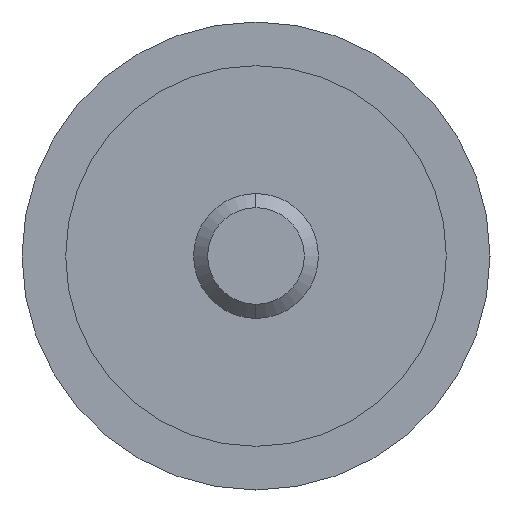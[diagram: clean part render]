
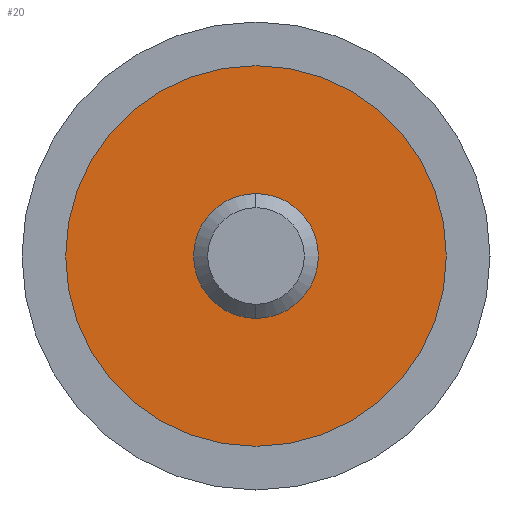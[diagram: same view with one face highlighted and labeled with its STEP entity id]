
A CAD part, left-side view. The second image highlights one B-rep face of the part: STEP entity #20.
In plain terms, the highlighted planar face has unit normal (-1, 0, 0).
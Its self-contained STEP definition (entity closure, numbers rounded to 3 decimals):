
#19 = DIRECTION ( 'NONE',  ( 0., 0., 1. ) ) ;
#20 = ADVANCED_FACE ( 'NONE', ( #87, #362 ), #357, .F. ) ;
#24 = EDGE_LOOP ( 'NONE', ( #215, #567 ) ) ;
#26 = DIRECTION ( 'NONE',  ( 0., 0., -1. ) ) ;
#43 = CARTESIAN_POINT ( 'NONE',  ( -3.99, 6.1, 0. ) ) ;
#56 = CARTESIAN_POINT ( 'NONE',  ( -3.99, 0., 6.1 ) ) ;
#68 = CIRCLE ( 'NONE', #584, 2. ) ;
#87 = FACE_OUTER_BOUND ( 'NONE', #107, .T. ) ;
#107 = EDGE_LOOP ( 'NONE', ( #369, #512 ) ) ;
#115 = CIRCLE ( 'NONE', #211, 6.1 ) ;
#135 = VERTEX_POINT ( 'NONE', #389 ) ;
#166 = CARTESIAN_POINT ( 'NONE',  ( -3.99, 0., 0. ) ) ;
#186 = CARTESIAN_POINT ( 'NONE',  ( -3.99, 0., 0. ) ) ;
#211 = AXIS2_PLACEMENT_3D ( 'NONE', #621, #680, #515 ) ;
#215 = ORIENTED_EDGE ( 'NONE', *, *, #294, .F. ) ;
#220 = VERTEX_POINT ( 'NONE', #343 ) ;
#254 = CARTESIAN_POINT ( 'NONE',  ( -3.99, 0., -6.1 ) ) ;
#294 = EDGE_CURVE ( 'NONE', #220, #135, #68, .T. ) ;
#343 = CARTESIAN_POINT ( 'NONE',  ( -3.99, 0., 2. ) ) ;
#350 = DIRECTION ( 'NONE',  ( -1., 0., 0. ) ) ;
#357 = PLANE ( 'NONE',  #374 ) ;
#362 = FACE_BOUND ( 'NONE', #24, .T. ) ;
#369 = ORIENTED_EDGE ( 'NONE', *, *, #639, .T. ) ;
#374 = AXIS2_PLACEMENT_3D ( 'NONE', #43, #616, #561 ) ;
#381 = DIRECTION ( 'NONE',  ( -1., 0., 0. ) ) ;
#389 = CARTESIAN_POINT ( 'NONE',  ( -3.99, 0., -2. ) ) ;
#424 = VERTEX_POINT ( 'NONE', #56 ) ;
#432 = AXIS2_PLACEMENT_3D ( 'NONE', #446, #445, #26 ) ;
#445 = DIRECTION ( 'NONE',  ( -1., 0., 0. ) ) ;
#446 = CARTESIAN_POINT ( 'NONE',  ( -3.99, 0., 0. ) ) ;
#494 = EDGE_CURVE ( 'NONE', #135, #220, #645, .T. ) ;
#512 = ORIENTED_EDGE ( 'NONE', *, *, #518, .T. ) ;
#515 = DIRECTION ( 'NONE',  ( 0., 0., 1. ) ) ;
#518 = EDGE_CURVE ( 'NONE', #656, #424, #648, .T. ) ;
#536 = DIRECTION ( 'NONE',  ( 0., 0., -1. ) ) ;
#541 = AXIS2_PLACEMENT_3D ( 'NONE', #186, #350, #19 ) ;
#561 = DIRECTION ( 'NONE',  ( 0., 0., -1. ) ) ;
#567 = ORIENTED_EDGE ( 'NONE', *, *, #494, .F. ) ;
#584 = AXIS2_PLACEMENT_3D ( 'NONE', #166, #381, #536 ) ;
#616 = DIRECTION ( 'NONE',  ( 1., 0., 0. ) ) ;
#621 = CARTESIAN_POINT ( 'NONE',  ( -3.99, 0., 0. ) ) ;
#639 = EDGE_CURVE ( 'NONE', #424, #656, #115, .T. ) ;
#645 = CIRCLE ( 'NONE', #432, 2. ) ;
#648 = CIRCLE ( 'NONE', #541, 6.1 ) ;
#656 = VERTEX_POINT ( 'NONE', #254 ) ;
#680 = DIRECTION ( 'NONE',  ( -1., 0., 0. ) ) ;
